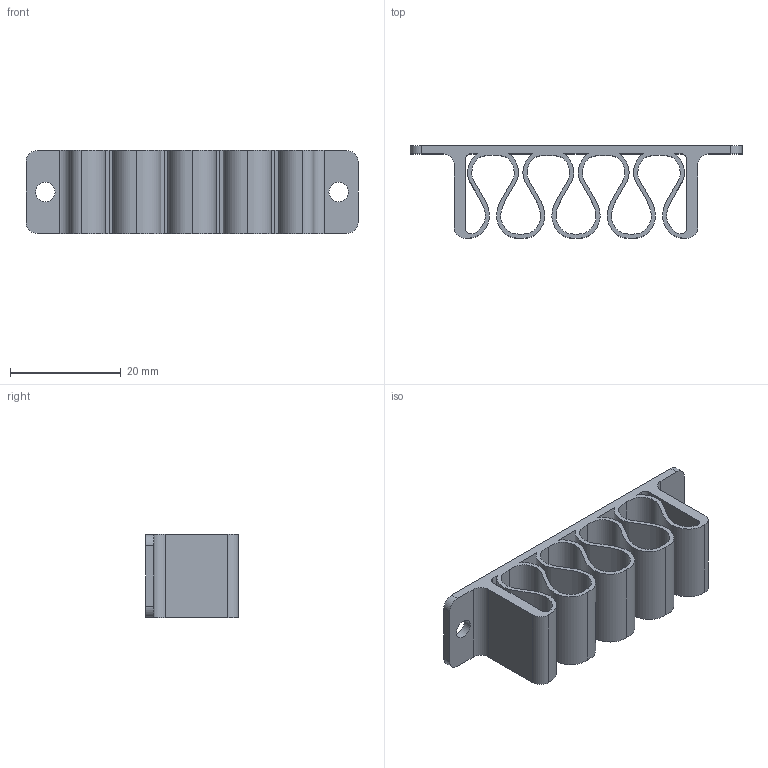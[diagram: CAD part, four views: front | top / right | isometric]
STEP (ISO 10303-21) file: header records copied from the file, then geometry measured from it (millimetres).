
FILE_DESCRIPTION(/* description */ ('Unknown'),/* implementation_level */ '2;1');
FILE_NAME(/* name */ 'UniversalCableHolder_4_slots',/* time_stamp */ '2025-01-23T14:25:30+01:00',/* author */ ('Unknown'),/* organization */ ('Unknown'),/* preprocessor_version */ 'ST-DEVELOPER v20',/* originating_system */ 'Solid Edge',/* authorisation */ 'Unknown');
FILE_SCHEMA (('AUTOMOTIVE_DESIGN {1 0 10303 214 3 1 1}'));
Length unit declared in the file: millimetre
Products named in the file (1): UniversalCableHolder_V2_40mm
Bounding box: 60 x 16.75 x 15 mm (x, y, z)
Volume: 4007.2 mm3; surface area: 7534.5 mm2
Topology: 1 solids, 1 shells, 46 faces, 132 edges, 88 vertices
Faces by surface type: plane 16, bspline 16, cylinder 14
Full cylindrical faces by diameter (mm): 3.5 x2
Entity records: 2424 total; most frequent: CARTESIAN_POINT 1249, ORIENTED_EDGE 260, DIRECTION 188, EDGE_CURVE 130, VERTEX_POINT 88, LINE 70, VECTOR 70, EDGE_LOOP 62
